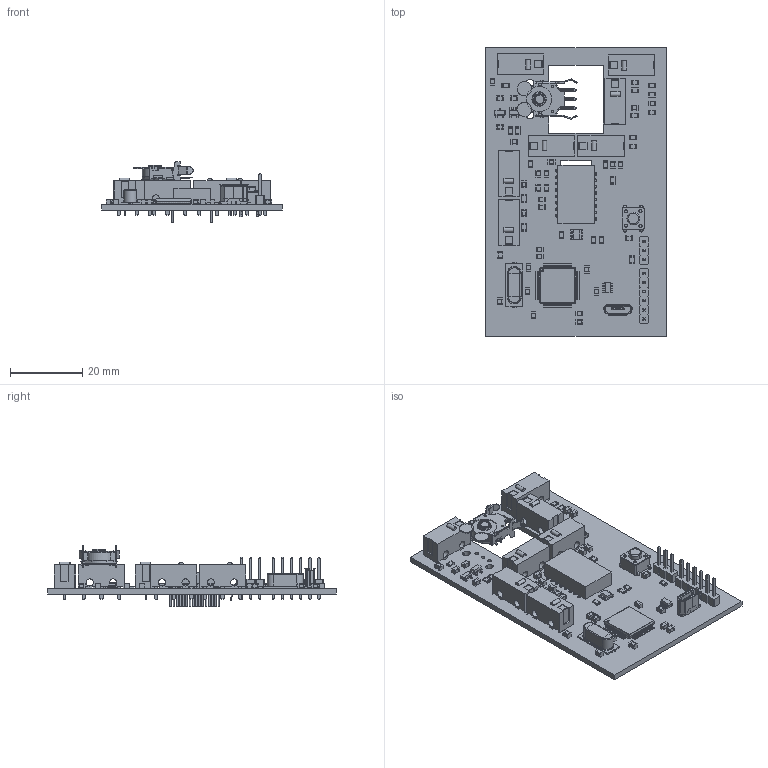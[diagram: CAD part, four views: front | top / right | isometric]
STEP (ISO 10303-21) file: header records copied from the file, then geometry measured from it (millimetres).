
FILE_DESCRIPTION(('FreeCAD Model'),'2;1');
FILE_NAME('Open CASCADE Shape Model','2021-03-27T06:34:24',('Author'),( ''),'Open CASCADE STEP processor 7.5','FreeCAD','Unknown');
FILE_SCHEMA(('AUTOMOTIVE_DESIGN { 1 0 10303 214 1 1 1 1 }'));
Length unit declared in the file: millimetre
Products named in the file (76): Lab1; Board_Geoms_c6cf; Local_CS_c6cf; Pcb_c6cf; PCB_Sketch_c6cf; Step_Models_c6cf; Top_c6cf; C12_C_0805_2012Metric_6025F31E; SW10_Solid_602B0951; S1_D2F-FL_6028FD2C; D4_LED_RGB_1210_6029B6A3; Y1_Crystal_SMD_HC49-SD_6025FA9E; U3_SOT_23_5_6025FA02; U2_SOT_23_6025F9ED; C1_C_0805_2012Metric_6025F263; C2_C_0805_2012Metric_6025F274; C3_C_0805_2012Metric_6025F285; C4_C_0805_2012Metric_6025F296; C5_C_0805_2012Metric_6025F2A7; C6_C_0805_2012Metric_6025F2B8; C7_C_0805_2012Metric_6025F2C9; C8_C_0805_2012Metric_6025F2DA; C9_C_0805_2012Metric_6025F2EB; C10_C_0805_2012Metric_6025F2FC; C11_C_0805_2012Metric_6025F30D; C13_C_0805_2012Metric_6025F32F; C14_C_0805_2012Metric_6025F340; C15_C_0805_2012Metric_6025F351; C16_C_0805_2012Metric_6025F362; C17_C_0805_2012Metric_6025F373; C18_C_0805_2012Metric_6025F384; C19_C_0805_2012Metric_6025F395; C20_C_0805_2012Metric_6025F3A6; C21_C_0805_2012Metric_6025F3B7; C22_C_0805_2012Metric_602B111B; C30_C_0805_2012Metric_6025F43F; C31_C_0805_2012Metric_6025F450; C32_C_0805_2012Metric_6025F461; C33_C_0805_2012Metric_602B117B; C34_C_0805_2012Metric_602B114B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
Assembly tree (75 placements, depth 4):
  Lab1
    Board_Geoms_c6cf
      Local_CS_c6cf
      Pcb_c6cf
      PCB_Sketch_c6cf
    Step_Models_c6cf
      Top_c6cf
        C12_C_0805_2012Metric_6025F31E
        SW10_Solid_602B0951
        S1_D2F-FL_6028FD2C
        D4_LED_RGB_1210_6029B6A3
        Y1_Crystal_SMD_HC49-SD_6025FA9E
        U3_SOT_23_5_6025FA02
        U2_SOT_23_6025F9ED
        C1_C_0805_2012Metric_6025F263
        C2_C_0805_2012Metric_6025F274
        C3_C_0805_2012Metric_6025F285
        C4_C_0805_2012Metric_6025F296
        C5_C_0805_2012Metric_6025F2A7
        C6_C_0805_2012Metric_6025F2B8
        C7_C_0805_2012Metric_6025F2C9
        C8_C_0805_2012Metric_6025F2DA
        C9_C_0805_2012Metric_6025F2EB
        C10_C_0805_2012Metric_6025F2FC
        C11_C_0805_2012Metric_6025F30D
        C13_C_0805_2012Metric_6025F32F
        C14_C_0805_2012Metric_6025F340
        C15_C_0805_2012Metric_6025F351
        C16_C_0805_2012Metric_6025F362
        C17_C_0805_2012Metric_6025F373
        C18_C_0805_2012Metric_6025F384
        C19_C_0805_2012Metric_6025F395
        C20_C_0805_2012Metric_6025F3A6
        C21_C_0805_2012Metric_6025F3B7
        C22_C_0805_2012Metric_602B111B
        C30_C_0805_2012Metric_6025F43F
        C31_C_0805_2012Metric_6025F450
        C32_C_0805_2012Metric_6025F461
        C33_C_0805_2012Metric_602B117B
        C34_C_0805_2012Metric_602B114B
        R2_R_0805_2012Metric_6025F5B7
        R3_R_0805_2012Metric_6025F5C8
        R4_R_0805_2012Metric_6025F5D9
        R9_R_0805_2012Metric_602B10EB
        R19_R_0805_2012Metric_602B10BB
        R20_R_0805_2012Metric_602B108B
        R24_R_0805_2012Metric_6025F71C
        R25_R_0805_2012Metric_6025F72D
        R26_R_0805_2012Metric_6025F73E
        R27_R_0805_2012Metric_6025F74F
        R28_R_0805_2012Metric_6025F760
        U1_pmw_3389-T3QU_6025F9C5
        U4_LQFP_64_10x10mm_P05mm_6025FA6D
        U5_SOT_23_6_6025FA83
        J2_PinHeader_1x06_P254mm_Vertical_60282C27
        JP1_PinHeader_1x03_P254mm_Vertical_60282C40
        C23_C_0805_2012Metric_602884BB
        C24_C_0805_2012Metric_602884CC
        C25_C_0805_2012Metric_602884DD
        C26_C_0805_2012Metric_602884EE
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Bounding box: 50 x 80 x 16.8 mm (x, y, z)
Volume: 10290.5 mm3; surface area: 14928.7 mm2
Topology: 130 solids, 130 shells, 4637 faces, 12144 edges, 7847 vertices
Faces by surface type: plane 3141, cylinder 1268, bspline 194, torus 14, sphere 12, cone 8
Full cylindrical faces by diameter (mm): 0.44 x5, 0.5 x17, 0.762 x16, 0.99 x4, 1 x12, 1.2 x21, 2 x14, 2.2 x1
Entity records: 344646 total; most frequent: CARTESIAN_POINT 74883, DIRECTION 45746, LINE 30396, VECTOR 30396, ORIENTED_EDGE 24180, PCURVE 24180, DEFINITIONAL_REPRESENTATION 24180, EDGE_CURVE 12090
